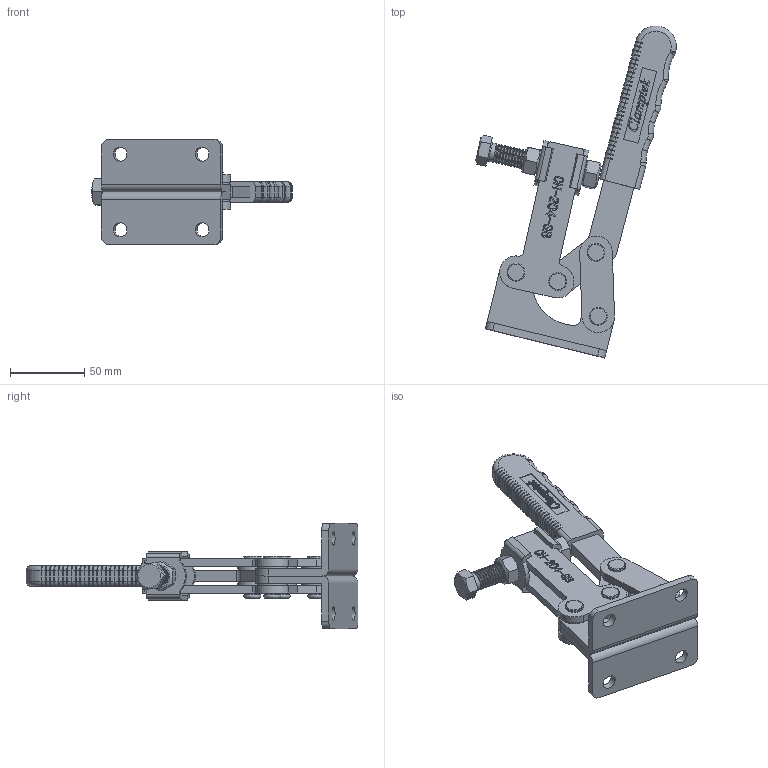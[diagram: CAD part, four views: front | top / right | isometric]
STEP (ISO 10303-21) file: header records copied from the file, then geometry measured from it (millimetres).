
FILE_DESCRIPTION(/* description */ ('STEP AP203'),/* implementation_level */ '2;1');
FILE_NAME(/* name */ 'E:\STRONA\Horizontal toggle clamp\CH-204-GB\CH-204-GB_OTWARTY.stp',/* time_stamp */ '2019-01-15T14:23:36+01:00',/* author */ ('Admin'),/* organization */ ('·L?¤¤?'),/* preprocessor_version */ 'ST-DEVELOPER v17.2',/* originating_system */ 'Autodesk Inventor 2019',/* authorisation */ '');
FILE_SCHEMA (('AUTOMOTIVE_DESIGN { 1 0 10303 214 3 1 1 }'));
Products named in the file (12): CH-204-GB_OTWARTY; 204-GB-01___; FW120(2)___; 204-GB-02___; 204-GB-06___; 204-GB-07___; 204-GB-03___; 204-GB-08___; 204-GB-05___; CH-FC-12130___; CH-FC-12300-01___; 204-GB-04___
Assembly tree (23 placements, depth 2):
  CH-204-GB_OTWARTY
    204-GB-06___  x4
    CH-FC-12300-01___  x2
    204-GB-05___  x4
    204-GB-01___
    204-GB-08___  x4
    FW120(2)___  x2
    204-GB-04___  x2
    204-GB-02___
    204-GB-07___
    204-GB-03___
    CH-FC-12130___
Bounding box: 135.47 x 224.16 x 71 mm (x, y, z)
Volume: 173102.6 mm3; surface area: 93361.1 mm2
Topology: 25 solids, 25 shells, 1387 faces, 3687 edges, 2404 vertices
Faces by surface type: plane 538, bspline 444, cylinder 296, torus 89, cone 14, sphere 6
Full cylindrical faces by diameter (mm): 4.6 x1, 6.6 x1, 9.4 x4, 9.5 x18, 10 x8, 10.2 x2, 10.5 x8, 12 x4, 12.7 x34, 20 x8
Entity records: 75034 total; most frequent: CARTESIAN_POINT 44462, ORIENTED_EDGE 6864, DIRECTION 4764, EDGE_CURVE 3432, VERTEX_POINT 2222, LINE 1864, VECTOR 1864, AXIS2_PLACEMENT_3D 1450
